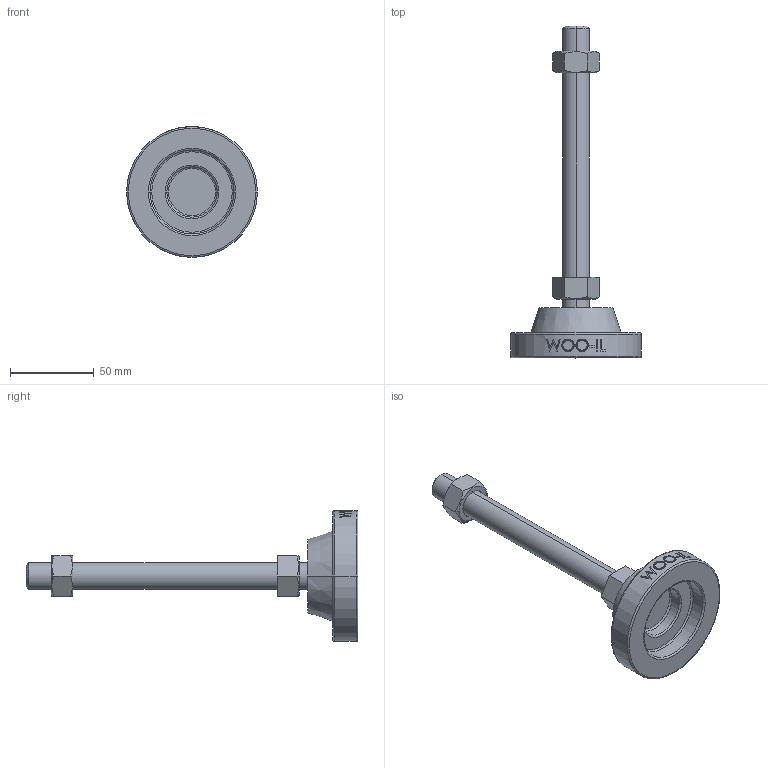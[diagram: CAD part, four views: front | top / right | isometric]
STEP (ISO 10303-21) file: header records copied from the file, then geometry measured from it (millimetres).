
FILE_DESCRIPTION (( 'STEP AP214' ), '1' );
FILE_NAME ('MFU78-M16-150.step', '2021-01-21T06:14:06', ( '' ), ( '' ), 'SwSTEP 2.0', 'SolidWorks 2019', '' );
FILE_SCHEMA (( 'AUTOMOTIVE_DESIGN' ));
Length unit declared in the file: millimetre
Products named in the file (2): MFU78-M16-150
Bounding box: 78 x 198 x 78 mm (x, y, z)
Volume: 115984 mm3; surface area: 28410.2 mm2
Topology: 2 solids, 2 shells, 111 faces, 255 edges, 162 vertices
Faces by surface type: plane 49, cylinder 20, bspline 16, cone 14, torus 12
Entity records: 4663 total; most frequent: CARTESIAN_POINT 2202, ORIENTED_EDGE 510, DIRECTION 471, EDGE_CURVE 255, AXIS2_PLACEMENT_3D 185, VERTEX_POINT 162, EDGE_LOOP 127, ADVANCED_FACE 111
